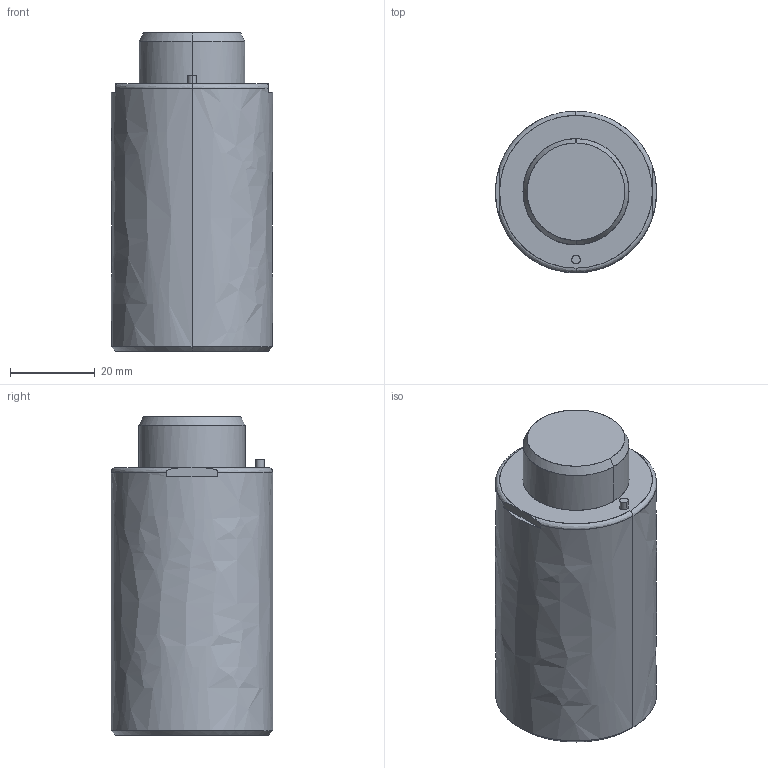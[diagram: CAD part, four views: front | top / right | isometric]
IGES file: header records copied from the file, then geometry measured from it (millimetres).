
Global section: file name: E:\UnigraphicsGraphicData\MISUMI_PRESS-PARTS\IGES\3d_gsx38-10_03991_r00.igs; native system: NX V5.0; preprocessor: UGS NX IGES V5.0; author: MISUMI; date: 20110105.160823; units: millimetre
Bounding box: 38 x 38 x 75 mm (x, y, z)
Surface area: 11852.7 mm2 (no closed solid volume)
Topology: 0 solids, 0 shells, 59 faces, 414 edges, 406 vertices
Faces by surface type: bspline 59
